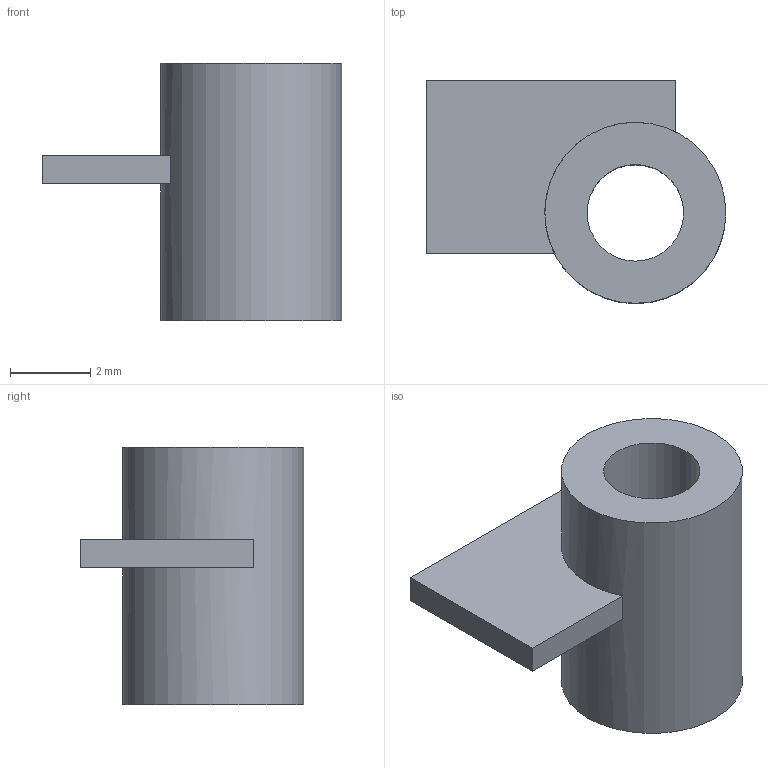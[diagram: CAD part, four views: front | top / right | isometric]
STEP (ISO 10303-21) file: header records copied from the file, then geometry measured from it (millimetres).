
FILE_DESCRIPTION(('Open CASCADE Model'),'2;1');
FILE_NAME('Display support H4','2026-11-11T17:10:56',('Author'),( 'Open CASCADE'),'Open CASCADE STEP processor 7.8','build123d', 'Unknown');
FILE_SCHEMA(('AUTOMOTIVE_DESIGN { 1 0 10303 214 1 1 1 1 }'));
Length unit declared in the file: millimetre
Products named in the file (1): Display support H4
Bounding box: 7.45 x 5.55 x 6.4 mm (x, y, z)
Volume: 85 mm3; surface area: 202.7 mm2
Topology: 1 solids, 1 shells, 10 faces, 21 edges, 14 vertices
Faces by surface type: plane 8, cylinder 2
Full cylindrical faces by diameter (mm): 2.4 x1, 4.5 x1
Entity records: 563 total; most frequent: CARTESIAN_POINT 92, DIRECTION 87, LINE 47, VECTOR 47, ORIENTED_EDGE 42, PCURVE 42, DEFINITIONAL_REPRESENTATION 42, EDGE_CURVE 21
